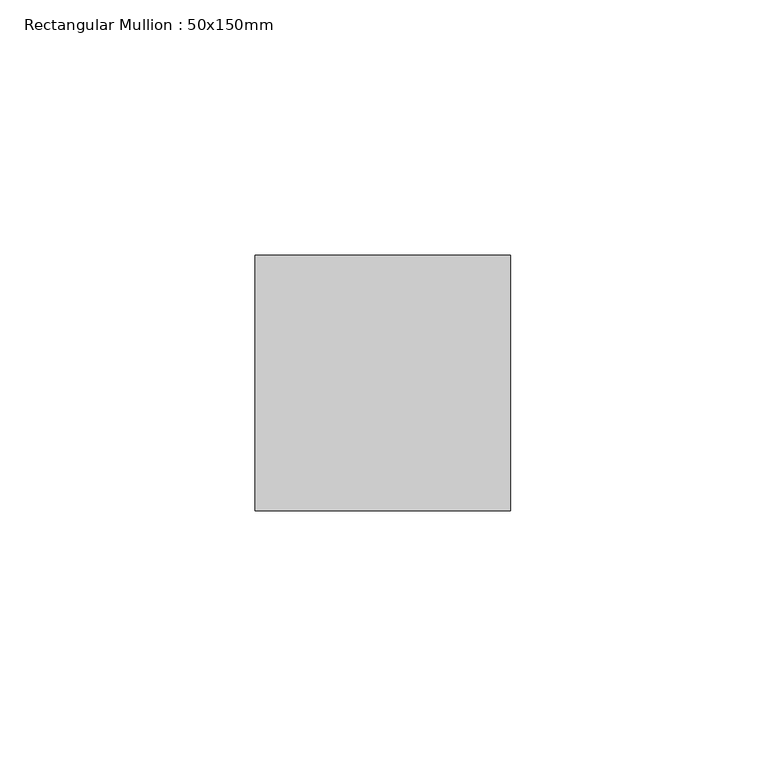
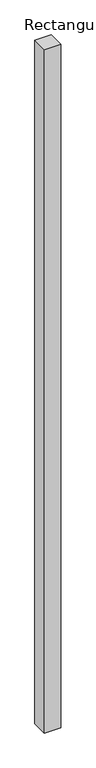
"""IFC4 building model written with IfcOpenShell, lengths in millimetres: member geometry, Rectangular Mullion : 50x150mm."""

from ifc_helpers import new_model, si_unit, frame, origin, place, context, project, spatial, polyline, outline, extrude, source, transform, mapped, element, save


def rectangular_mullion_50x150mm_01eea1bb(model_context):
    return source(origin(), model_context, "Body", "SweptSolid", [
        extrude(outline(polyline([(25.0, 25.0), (25.0, -25.0), (-25.0, -25.0), (-25.0, 25.0), (25.0, 25.0)])), frame((0.0, 0.0, -2201.0), z_axis=(0.0, 0.0, 1.0), x_axis=(1.0, 0.0, 0.0)), (0.0, 0.0, 1.0), 2201.0),
    ])


if __name__ == "__main__":
    model = new_model("IFC4")
    model_context = context("Model", 3, world=origin())
    ifc_project = project(units=[si_unit("LENGTHUNIT", "METRE", prefix="MILLI")], contexts=[model_context])
    site = spatial("IfcSite", under=ifc_project)
    building = spatial("IfcBuilding", under=site)
    placement = place(None, origin())
    rectangular_mullion_50x150mm_shape = rectangular_mullion_50x150mm_01eea1bb(model_context)
    element("IfcMember", 1, ObjectType="Rectangular Mullion : 50x150mm", at=placement, inside=building, context=model_context, shape_type="MappedRepresentation", body=[
        mapped(rectangular_mullion_50x150mm_shape, transform((0.0, 0.0, 0.0), x_axis=(1.0, 0.0, 0.0), y_axis=(0.0, 1.0, 0.0), z_axis=(0.0, 0.0, 1.0))),
    ])
    save(model, "model.ifc")
